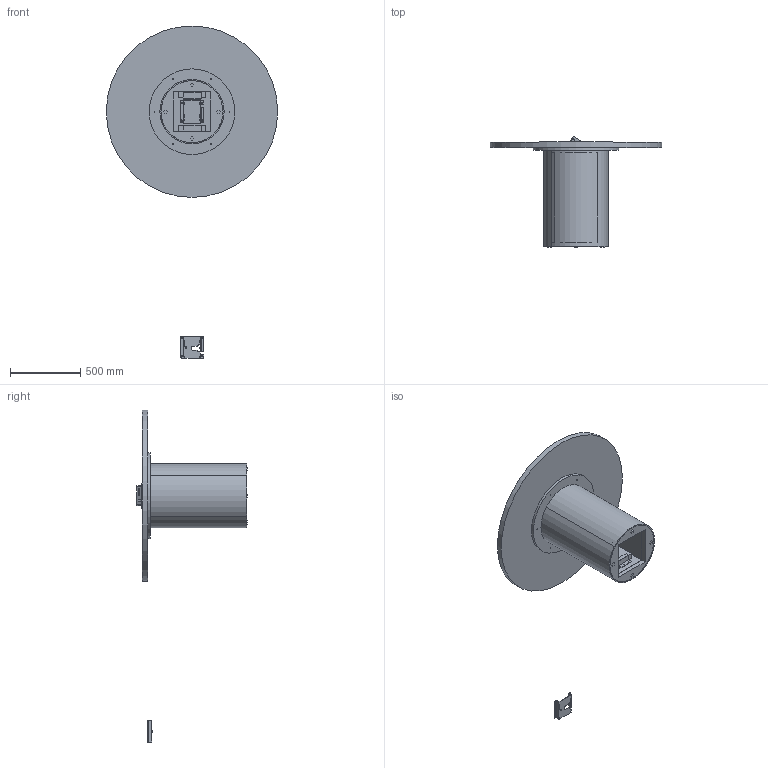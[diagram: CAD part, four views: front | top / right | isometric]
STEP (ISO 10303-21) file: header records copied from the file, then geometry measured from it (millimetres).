
FILE_DESCRIPTION(/* description */ ('','CAx-IF Rec.Pracs.---Representation and Presentation of Product Manufacturing Information (PMI)---4.0---2014-10-13'),/* implementation_level */ '2;1');
FILE_NAME(/* name */ 'TABLE_FOUNDATION 1.stp',/* time_stamp */ '2024-12-07T16:54:15-05:00',/* author */ ('mbowman'),/* organization */ (''),/* preprocessor_version */ 'ST-DEVELOPER v19.2',/* originating_system */ 'Autodesk Inventor 2023',/* authorisation */ '');
FILE_SCHEMA (('AP242_MANAGED_MODEL_BASED_3D_ENGINEERING_MIM_LF { 1 0 10303 442 1 1 4 }'));
Length unit declared in the file: inch
Products named in the file (17): FOUNDATION^TABLE 1_ROUND-ASSEMBLY; FOUNDATION^TABLE 1_ROUND-WORKSURFACE; FOUNDATION^TABLE 1_ROUND-SUB TOP; FOUNDATION^TABLE 1_ROUND-BASE SHELL; FOUNDATION^TABLE 1_ROUND-BASE DOOR; FOUNDATION^TABLE 1_ROUND-BASE TOP; FOUNDATION^TABLE 1_ROUND-BASE BOTTOM; FOUNDATION^TABLE 1_ROUND-INTERNAL BACK; FOUNDATION^TABLE 1_ROUND-INTERNAL RT SIDE; FOUNDATION^TABLE 1_ROUND-INTERNAL LT SIDE; H-713AA; ASHLEY DUO AIR (VISUAL ONLY); ASHLEY DUO AIR-DROP IN_CORRECTED; ASHLEY DUAL AIR DESK POWER UNIT_NO CORD (CORRECT); ASHLEY DUO AIR-BACK PLATE (MIR CORRECT); BALAST BLOCK; BALLAST BLOCK BRACKET - (H-577)
Assembly tree (23 placements, depth 3):
  FOUNDATION^TABLE 1_ROUND-ASSEMBLY
    FOUNDATION^TABLE 1_ROUND-WORKSURFACE
    FOUNDATION^TABLE 1_ROUND-SUB TOP
    FOUNDATION^TABLE 1_ROUND-BASE SHELL
    FOUNDATION^TABLE 1_ROUND-BASE DOOR
    FOUNDATION^TABLE 1_ROUND-BASE TOP
    FOUNDATION^TABLE 1_ROUND-BASE BOTTOM
    FOUNDATION^TABLE 1_ROUND-INTERNAL BACK
    FOUNDATION^TABLE 1_ROUND-INTERNAL RT SIDE
    FOUNDATION^TABLE 1_ROUND-INTERNAL LT SIDE
    H-713AA  x4
    ASHLEY DUO AIR (VISUAL ONLY)
    ASHLEY DUO AIR-DROP IN_CORRECTED
      ASHLEY DUAL AIR DESK POWER UNIT_NO CORD (CORRECT)
      ASHLEY DUO AIR-BACK PLATE (MIR CORRECT)
    BALAST BLOCK  x2
    BALLAST BLOCK BRACKET - (H-577)  x4
Bounding box: 1219.2 x 789.42 x 2361.63 mm (x, y, z)
Volume: 83735495.4 mm3; surface area: 7433682.2 mm2
Topology: 37 solids, 44 shells, 635 faces, 1601 edges, 1057 vertices
Faces by surface type: plane 403, cylinder 218, cone 8, bspline 6
Full cylindrical faces by diameter (mm): 4.762 x28, 5.74 x4, 6.35 x14, 7.938 x12, 8.202 x5, 8.636 x2, 11.112 x4, 441.325 x2, 609.6 x1, 1219.2 x1
Entity records: 20741 total; most frequent: CARTESIAN_POINT 4053, DIRECTION 3397, ORIENTED_EDGE 2744, EDGE_CURVE 1372, AXIS2_PLACEMENT_3D 1233, LINE 931, VECTOR 931, VERTEX_POINT 908
